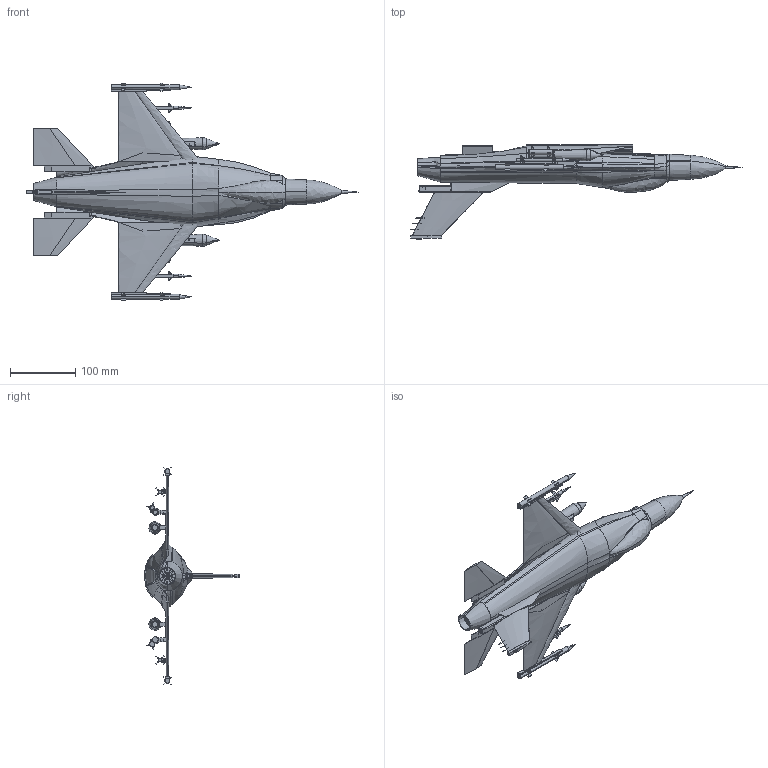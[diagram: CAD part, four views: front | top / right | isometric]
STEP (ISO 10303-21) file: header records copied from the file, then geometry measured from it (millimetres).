
FILE_DESCRIPTION(('CATIA V5 STEP Exchange'),'2;1');
FILE_NAME('D:\Kaliraj K\catia drawings\f-16 jet\catia drawn\F-16 jet.stp','2014-11-29T05:16:32+00:00',('none'),('none'),'CATIA Version 5 Release 19 SP 2 (IN-10)','CATIA V5 STEP AP203','none');
FILE_SCHEMA(('CONFIG_CONTROL_DESIGN'));
Products named in the file (1): Part1
Bounding box: 509.41 x 145.31 x 333.31 mm (x, y, z)
Volume: 431317 mm3; surface area: 339441.7 mm2
Topology: 37 solids, 83 shells, 2566 faces, 6043 edges, 3426 vertices
Faces by surface type: cylinder 861, plane 586, bspline 535, sphere 262, torus 231, cone 76, extrusion 9, revolution 6
Entity records: 109063 total; most frequent: CARTESIAN_POINT 60303, ORIENTED_EDGE 11290, DIRECTION 7207, EDGE_CURVE 5613, AXIS2_PLACEMENT_3D 3352, VERTEX_POINT 3227, EDGE_LOOP 2629, ADVANCED_FACE 2566
